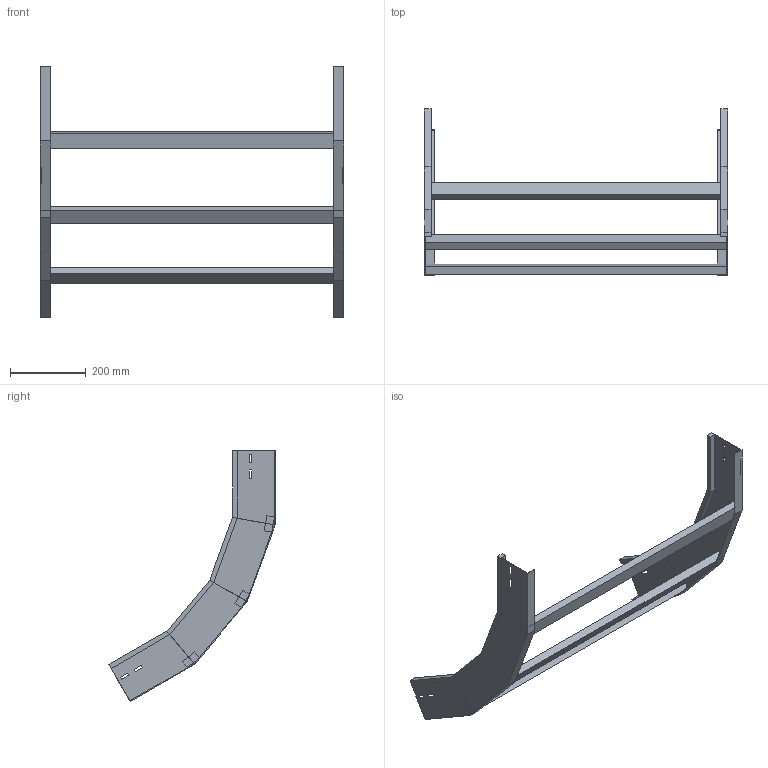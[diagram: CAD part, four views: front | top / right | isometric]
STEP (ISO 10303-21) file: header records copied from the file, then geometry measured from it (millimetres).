
FILE_DESCRIPTION (( 'STEP AP214' ), '1' );
FILE_NAME ('B2X40B5J800XX.step', '2025-03-20T10:16:23', ( '' ), ( '' ), 'SwSTEP 2.0', 'SolidWorks 2023', '' );
FILE_SCHEMA (( 'AUTOMOTIVE_DESIGN' ));
Length unit declared in the file: millimetre
Products named in the file (3): TRAVERSINO_800; B2X40B5J800XX; LONGH.SALITA_60°_H112.5_R500
Assembly tree (5 placements, depth 2):
  B2X40B5J800XX
    LONGH.SALITA_60°_H112.5_R500  x2
    TRAVERSINO_800  x3
Bounding box: 800 x 438.74 x 662.49 mm (x, y, z)
Volume: 2631466.9 mm3; surface area: 772219.8 mm2
Topology: 5 solids, 5 shells, 118 faces, 276 edges, 168 vertices
Faces by surface type: plane 118
Entity records: 1672 total; most frequent: CARTESIAN_POINT 276, ORIENTED_EDGE 264, DIRECTION 260, VECTOR 132, LINE 132, EDGE_CURVE 132, VERTEX_POINT 80, EDGE_LOOP 64
